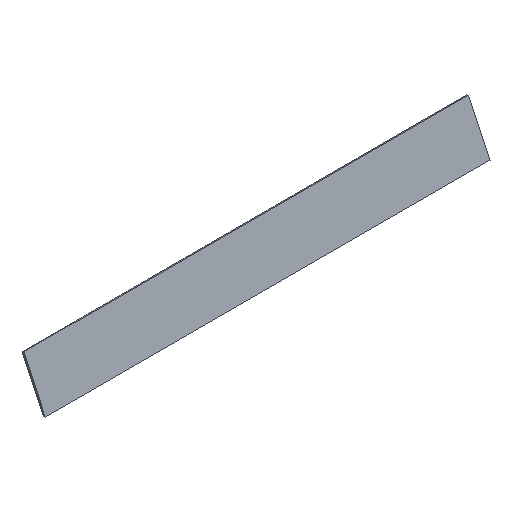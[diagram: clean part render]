
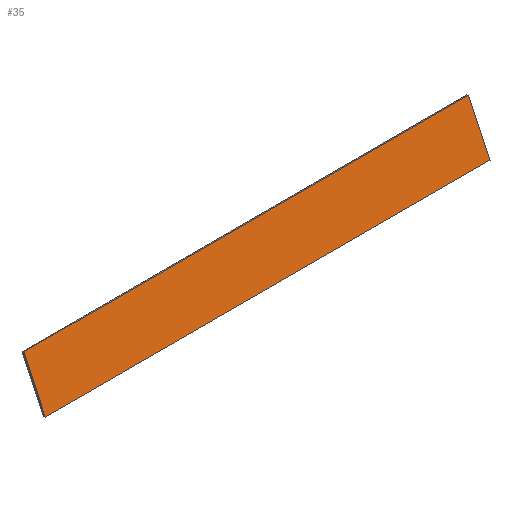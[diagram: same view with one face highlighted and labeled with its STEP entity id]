
A CAD part, isometric view. The second image highlights one B-rep face of the part: STEP entity #35.
In plain terms, the highlighted planar face has unit normal (0, -0.906, 0.423).
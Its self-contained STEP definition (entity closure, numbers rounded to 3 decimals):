
#35 = ADVANCED_FACE('',(#36),#50,.F.);
#36 = FACE_BOUND('',#37,.F.);
#37 = EDGE_LOOP('',(#38,#73,#98,#126));
#38 = ORIENTED_EDGE('',*,*,#39,.T.);
#39 = EDGE_CURVE('',#40,#42,#44,.T.);
#40 = VERTEX_POINT('',#41);
#41 = CARTESIAN_POINT('',(0.15,-160.777,8.763));
#42 = VERTEX_POINT('',#43);
#43 = CARTESIAN_POINT('',(0.15,-154.733,21.723));
#44 = SURFACE_CURVE('',#45,(#49,#61),.PCURVE_S1.);
#45 = LINE('',#46,#47);
#46 = CARTESIAN_POINT('',(0.15,-160.777,8.763));
#47 = VECTOR('',#48,1.);
#48 = DIRECTION('',(0.,0.423,0.906));
#49 = PCURVE('',#50,#55);
#50 = PLANE('',#51);
#51 = AXIS2_PLACEMENT_3D('',#52,#53,#54);
#52 = CARTESIAN_POINT('',(126.,-160.777,8.763));
#53 = DIRECTION('',(0.,0.906,-0.423));
#54 = DIRECTION('',(0.,0.423,0.906));
#55 = DEFINITIONAL_REPRESENTATION('',(#56),#60);
#56 = LINE('',#57,#58);
#57 = CARTESIAN_POINT('',(0.,-125.85));
#58 = VECTOR('',#59,1.);
#59 = DIRECTION('',(1.,0.));
#60 = ( GEOMETRIC_REPRESENTATION_CONTEXT(2) 
PARAMETRIC_REPRESENTATION_CONTEXT() REPRESENTATION_CONTEXT('2D SPACE',''
  ) );
#61 = PCURVE('',#62,#67);
#62 = PLANE('',#63);
#63 = AXIS2_PLACEMENT_3D('',#64,#65,#66);
#64 = CARTESIAN_POINT('',(0.15,-160.777,8.763));
#65 = DIRECTION('',(-1.,0.,0.));
#66 = DIRECTION('',(0.,0.46,0.888));
#67 = DEFINITIONAL_REPRESENTATION('',(#68),#72);
#68 = LINE('',#69,#70);
#69 = CARTESIAN_POINT('',(0.,0.));
#70 = VECTOR('',#71,1.);
#71 = DIRECTION('',(0.999,-0.042));
#72 = ( GEOMETRIC_REPRESENTATION_CONTEXT(2) 
PARAMETRIC_REPRESENTATION_CONTEXT() REPRESENTATION_CONTEXT('2D SPACE',''
  ) );
#73 = ORIENTED_EDGE('',*,*,#74,.T.);
#74 = EDGE_CURVE('',#42,#75,#77,.T.);
#75 = VERTEX_POINT('',#76);
#76 = CARTESIAN_POINT('',(126.,-154.733,21.723));
#77 = SURFACE_CURVE('',#78,(#81,#87),.PCURVE_S1.);
#78 = B_SPLINE_CURVE_WITH_KNOTS('',1,(#79,#80),.UNSPECIFIED.,.F.,.F.,(2,
    2),(0.,1.),.PIECEWISE_BEZIER_KNOTS.);
#79 = CARTESIAN_POINT('',(0.15,-154.733,21.723));
#80 = CARTESIAN_POINT('',(126.,-154.733,21.723));
#81 = PCURVE('',#50,#82);
#82 = DEFINITIONAL_REPRESENTATION('',(#83),#86);
#83 = B_SPLINE_CURVE_WITH_KNOTS('',1,(#84,#85),.UNSPECIFIED.,.F.,.F.,(2,
    2),(0.,1.),.PIECEWISE_BEZIER_KNOTS.);
#84 = CARTESIAN_POINT('',(14.3,-125.85));
#85 = CARTESIAN_POINT('',(14.3,0.));
#86 = ( GEOMETRIC_REPRESENTATION_CONTEXT(2) 
PARAMETRIC_REPRESENTATION_CONTEXT() REPRESENTATION_CONTEXT('2D SPACE',''
  ) );
#87 = PCURVE('',#88,#93);
#88 = PLANE('',#89);
#89 = AXIS2_PLACEMENT_3D('',#90,#91,#92);
#90 = CARTESIAN_POINT('',(126.,-154.733,21.723));
#91 = DIRECTION('',(0.,-0.423,-0.906));
#92 = DIRECTION('',(0.,0.906,-0.423));
#93 = DEFINITIONAL_REPRESENTATION('',(#94),#97);
#94 = B_SPLINE_CURVE_WITH_KNOTS('',1,(#95,#96),.UNSPECIFIED.,.F.,.F.,(2,
    2),(0.,1.),.PIECEWISE_BEZIER_KNOTS.);
#95 = CARTESIAN_POINT('',(0.,-125.85));
#96 = CARTESIAN_POINT('',(0.,0.));
#97 = ( GEOMETRIC_REPRESENTATION_CONTEXT(2) 
PARAMETRIC_REPRESENTATION_CONTEXT() REPRESENTATION_CONTEXT('2D SPACE',''
  ) );
#98 = ORIENTED_EDGE('',*,*,#99,.F.);
#99 = EDGE_CURVE('',#100,#75,#102,.T.);
#100 = VERTEX_POINT('',#101);
#101 = CARTESIAN_POINT('',(126.,-160.777,8.763));
#102 = SURFACE_CURVE('',#103,(#107,#114),.PCURVE_S1.);
#103 = LINE('',#104,#105);
#104 = CARTESIAN_POINT('',(126.,-160.777,8.763));
#105 = VECTOR('',#106,1.);
#106 = DIRECTION('',(0.,0.423,0.906));
#107 = PCURVE('',#50,#108);
#108 = DEFINITIONAL_REPRESENTATION('',(#109),#113);
#109 = LINE('',#110,#111);
#110 = CARTESIAN_POINT('',(0.,0.));
#111 = VECTOR('',#112,1.);
#112 = DIRECTION('',(1.,0.));
#113 = ( GEOMETRIC_REPRESENTATION_CONTEXT(2) 
PARAMETRIC_REPRESENTATION_CONTEXT() REPRESENTATION_CONTEXT('2D SPACE',''
  ) );
#114 = PCURVE('',#115,#120);
#115 = PLANE('',#116);
#116 = AXIS2_PLACEMENT_3D('',#117,#118,#119);
#117 = CARTESIAN_POINT('',(126.,-160.777,8.763));
#118 = DIRECTION('',(-1.,0.,0.));
#119 = DIRECTION('',(0.,0.46,0.888));
#120 = DEFINITIONAL_REPRESENTATION('',(#121),#125);
#121 = LINE('',#122,#123);
#122 = CARTESIAN_POINT('',(0.,0.));
#123 = VECTOR('',#124,1.);
#124 = DIRECTION('',(0.999,-0.042));
#125 = ( GEOMETRIC_REPRESENTATION_CONTEXT(2) 
PARAMETRIC_REPRESENTATION_CONTEXT() REPRESENTATION_CONTEXT('2D SPACE',''
  ) );
#126 = ORIENTED_EDGE('',*,*,#127,.F.);
#127 = EDGE_CURVE('',#40,#100,#128,.T.);
#128 = SURFACE_CURVE('',#129,(#132,#138),.PCURVE_S1.);
#129 = B_SPLINE_CURVE_WITH_KNOTS('',1,(#130,#131),.UNSPECIFIED.,.F.,.F.,
  (2,2),(0.,1.),.PIECEWISE_BEZIER_KNOTS.);
#130 = CARTESIAN_POINT('',(0.15,-160.777,8.763));
#131 = CARTESIAN_POINT('',(126.,-160.777,8.763));
#132 = PCURVE('',#50,#133);
#133 = DEFINITIONAL_REPRESENTATION('',(#134),#137);
#134 = B_SPLINE_CURVE_WITH_KNOTS('',1,(#135,#136),.UNSPECIFIED.,.F.,.F.,
  (2,2),(0.,1.),.PIECEWISE_BEZIER_KNOTS.);
#135 = CARTESIAN_POINT('',(0.,-125.85));
#136 = CARTESIAN_POINT('',(0.,0.));
#137 = ( GEOMETRIC_REPRESENTATION_CONTEXT(2) 
PARAMETRIC_REPRESENTATION_CONTEXT() REPRESENTATION_CONTEXT('2D SPACE',''
  ) );
#138 = PCURVE('',#139,#144);
#139 = PLANE('',#140);
#140 = AXIS2_PLACEMENT_3D('',#141,#142,#143);
#141 = CARTESIAN_POINT('',(126.,-160.233,8.509));
#142 = DIRECTION('',(-0.,0.423,0.906));
#143 = DIRECTION('',(0.,-0.906,0.423));
#144 = DEFINITIONAL_REPRESENTATION('',(#145),#148);
#145 = B_SPLINE_CURVE_WITH_KNOTS('',1,(#146,#147),.UNSPECIFIED.,.F.,.F.,
  (2,2),(0.,1.),.PIECEWISE_BEZIER_KNOTS.);
#146 = CARTESIAN_POINT('',(0.6,-125.85));
#147 = CARTESIAN_POINT('',(0.6,0.));
#148 = ( GEOMETRIC_REPRESENTATION_CONTEXT(2) 
PARAMETRIC_REPRESENTATION_CONTEXT() REPRESENTATION_CONTEXT('2D SPACE',''
  ) );
